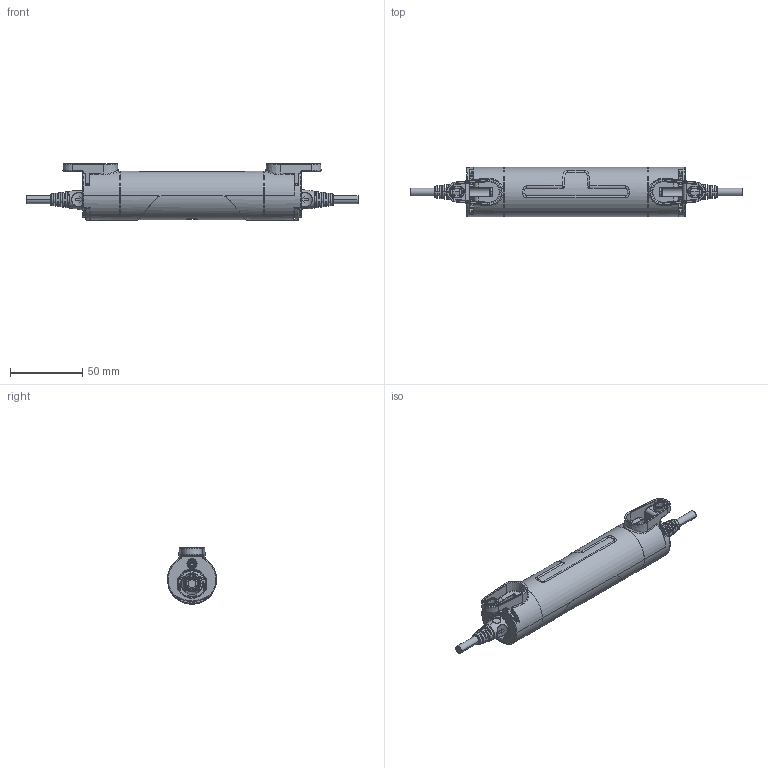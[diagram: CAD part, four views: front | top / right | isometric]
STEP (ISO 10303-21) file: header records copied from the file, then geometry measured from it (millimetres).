
FILE_DESCRIPTION((''),'2;1');
FILE_NAME('0830626','2018-05-29T11:01:11',('hat'),(''),'CREO PARAMETRIC BY PTC INC, 2017260','CREO PARAMETRIC BY PTC INC, 2017260','');
FILE_SCHEMA(('AUTOMOTIVE_DESIGN { 1 0 10303 214 1 1 1 1 }'));
Products named in the file (1): 0830626
Bounding box: 230.1 x 34 x 39 mm (x, y, z)
Volume: 136501.1 mm3; surface area: 32644.2 mm2
Topology: 1 solids, 5 shells, 2985 faces, 7959 edges, 5020 vertices
Faces by surface type: plane 1630, cylinder 697, torus 286, bspline 180, sphere 82, cone 62, extrusion 48
Entity records: 119117 total; most frequent: CARTESIAN_POINT 31349, ORIENTED_EDGE 15874, DIRECTION 14204, EDGE_CURVE 7937, VECTOR 5200, LINE 5152, VERTEX_POINT 5020, AXIS2_PLACEMENT_3D 4502
